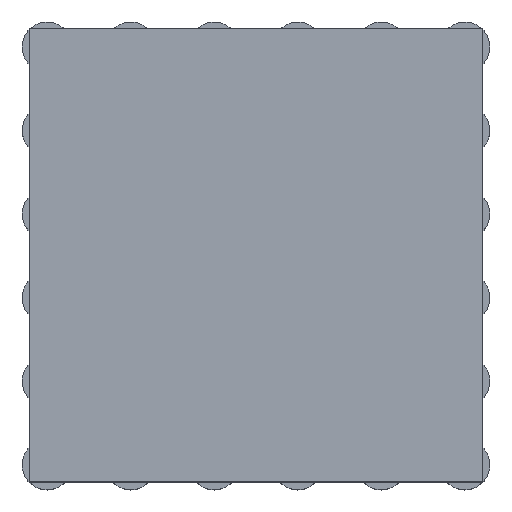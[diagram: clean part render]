
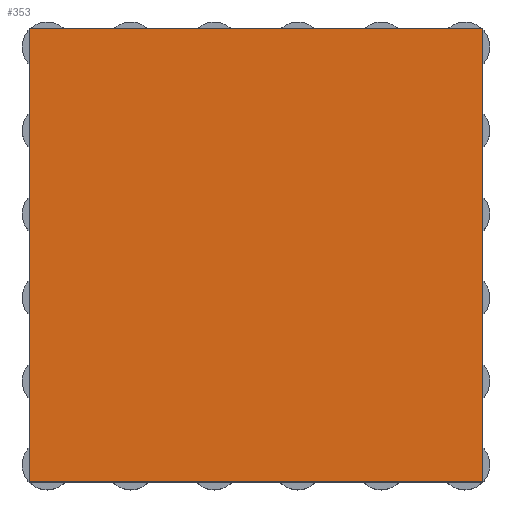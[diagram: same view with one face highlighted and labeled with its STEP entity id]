
A CAD part, top view. The second image highlights one B-rep face of the part: STEP entity #353.
In plain terms, the highlighted planar face has unit normal (0, 0, 1).
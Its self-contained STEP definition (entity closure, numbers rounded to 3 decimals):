
#39 = VERTEX_POINT('',#40);
#40 = CARTESIAN_POINT('',(-0.6,0.6,26.1));
#47 = PLANE('',#48);
#48 = AXIS2_PLACEMENT_3D('',#49,#50,#51);
#49 = CARTESIAN_POINT('',(-0.6,0.6,0.));
#50 = DIRECTION('',(0.,1.,0.));
#51 = DIRECTION('',(1.,0.,0.));
#59 = PLANE('',#60);
#60 = AXIS2_PLACEMENT_3D('',#61,#62,#63);
#61 = CARTESIAN_POINT('',(-0.6,-14.8,0.));
#62 = DIRECTION('',(-1.,0.,0.));
#63 = DIRECTION('',(0.,1.,0.));
#71 = EDGE_CURVE('',#39,#72,#74,.T.);
#72 = VERTEX_POINT('',#73);
#73 = CARTESIAN_POINT('',(14.8,0.6,26.1));
#74 = SURFACE_CURVE('',#75,(#79,#86),.PCURVE_S1.);
#75 = LINE('',#76,#77);
#76 = CARTESIAN_POINT('',(-0.6,0.6,26.1));
#77 = VECTOR('',#78,1.);
#78 = DIRECTION('',(1.,0.,0.));
#79 = PCURVE('',#47,#80);
#80 = DEFINITIONAL_REPRESENTATION('',(#81),#85);
#81 = LINE('',#82,#83);
#82 = CARTESIAN_POINT('',(0.,-26.1));
#83 = VECTOR('',#84,1.);
#84 = DIRECTION('',(1.,0.));
#85 = ( GEOMETRIC_REPRESENTATION_CONTEXT(2) 
PARAMETRIC_REPRESENTATION_CONTEXT() REPRESENTATION_CONTEXT('2D SPACE',''
  ) );
#86 = PCURVE('',#87,#92);
#87 = PLANE('',#88);
#88 = AXIS2_PLACEMENT_3D('',#89,#90,#91);
#89 = CARTESIAN_POINT('',(7.1,-7.1,26.1));
#90 = DIRECTION('',(0.,0.,-1.));
#91 = DIRECTION('',(-1.,0.,0.));
#92 = DEFINITIONAL_REPRESENTATION('',(#93),#97);
#93 = LINE('',#94,#95);
#94 = CARTESIAN_POINT('',(7.7,7.7));
#95 = VECTOR('',#96,1.);
#96 = DIRECTION('',(-1.,0.));
#97 = ( GEOMETRIC_REPRESENTATION_CONTEXT(2) 
PARAMETRIC_REPRESENTATION_CONTEXT() REPRESENTATION_CONTEXT('2D SPACE',''
  ) );
#115 = PLANE('',#116);
#116 = AXIS2_PLACEMENT_3D('',#117,#118,#119);
#117 = CARTESIAN_POINT('',(14.8,0.6,0.));
#118 = DIRECTION('',(1.,0.,-0.));
#119 = DIRECTION('',(0.,-1.,0.));
#157 = EDGE_CURVE('',#72,#158,#160,.T.);
#158 = VERTEX_POINT('',#159);
#159 = CARTESIAN_POINT('',(14.8,-14.8,26.1));
#160 = SURFACE_CURVE('',#161,(#165,#172),.PCURVE_S1.);
#161 = LINE('',#162,#163);
#162 = CARTESIAN_POINT('',(14.8,0.6,26.1));
#163 = VECTOR('',#164,1.);
#164 = DIRECTION('',(0.,-1.,0.));
#165 = PCURVE('',#115,#166);
#166 = DEFINITIONAL_REPRESENTATION('',(#167),#171);
#167 = LINE('',#168,#169);
#168 = CARTESIAN_POINT('',(0.,-26.1));
#169 = VECTOR('',#170,1.);
#170 = DIRECTION('',(1.,0.));
#171 = ( GEOMETRIC_REPRESENTATION_CONTEXT(2) 
PARAMETRIC_REPRESENTATION_CONTEXT() REPRESENTATION_CONTEXT('2D SPACE',''
  ) );
#172 = PCURVE('',#87,#173);
#173 = DEFINITIONAL_REPRESENTATION('',(#174),#178);
#174 = LINE('',#175,#176);
#175 = CARTESIAN_POINT('',(-7.7,7.7));
#176 = VECTOR('',#177,1.);
#177 = DIRECTION('',(0.,-1.));
#178 = ( GEOMETRIC_REPRESENTATION_CONTEXT(2) 
PARAMETRIC_REPRESENTATION_CONTEXT() REPRESENTATION_CONTEXT('2D SPACE',''
  ) );
#196 = PLANE('',#197);
#197 = AXIS2_PLACEMENT_3D('',#198,#199,#200);
#198 = CARTESIAN_POINT('',(14.8,-14.8,0.));
#199 = DIRECTION('',(0.,-1.,0.));
#200 = DIRECTION('',(-1.,0.,0.));
#233 = EDGE_CURVE('',#158,#234,#236,.T.);
#234 = VERTEX_POINT('',#235);
#235 = CARTESIAN_POINT('',(-0.6,-14.8,26.1));
#236 = SURFACE_CURVE('',#237,(#241,#248),.PCURVE_S1.);
#237 = LINE('',#238,#239);
#238 = CARTESIAN_POINT('',(14.8,-14.8,26.1));
#239 = VECTOR('',#240,1.);
#240 = DIRECTION('',(-1.,0.,0.));
#241 = PCURVE('',#196,#242);
#242 = DEFINITIONAL_REPRESENTATION('',(#243),#247);
#243 = LINE('',#244,#245);
#244 = CARTESIAN_POINT('',(0.,-26.1));
#245 = VECTOR('',#246,1.);
#246 = DIRECTION('',(1.,0.));
#247 = ( GEOMETRIC_REPRESENTATION_CONTEXT(2) 
PARAMETRIC_REPRESENTATION_CONTEXT() REPRESENTATION_CONTEXT('2D SPACE',''
  ) );
#248 = PCURVE('',#87,#249);
#249 = DEFINITIONAL_REPRESENTATION('',(#250),#254);
#250 = LINE('',#251,#252);
#251 = CARTESIAN_POINT('',(-7.7,-7.7));
#252 = VECTOR('',#253,1.);
#253 = DIRECTION('',(1.,0.));
#254 = ( GEOMETRIC_REPRESENTATION_CONTEXT(2) 
PARAMETRIC_REPRESENTATION_CONTEXT() REPRESENTATION_CONTEXT('2D SPACE',''
  ) );
#304 = EDGE_CURVE('',#234,#39,#305,.T.);
#305 = SURFACE_CURVE('',#306,(#310,#317),.PCURVE_S1.);
#306 = LINE('',#307,#308);
#307 = CARTESIAN_POINT('',(-0.6,-14.8,26.1));
#308 = VECTOR('',#309,1.);
#309 = DIRECTION('',(0.,1.,0.));
#310 = PCURVE('',#59,#311);
#311 = DEFINITIONAL_REPRESENTATION('',(#312),#316);
#312 = LINE('',#313,#314);
#313 = CARTESIAN_POINT('',(0.,-26.1));
#314 = VECTOR('',#315,1.);
#315 = DIRECTION('',(1.,0.));
#316 = ( GEOMETRIC_REPRESENTATION_CONTEXT(2) 
PARAMETRIC_REPRESENTATION_CONTEXT() REPRESENTATION_CONTEXT('2D SPACE',''
  ) );
#317 = PCURVE('',#87,#318);
#318 = DEFINITIONAL_REPRESENTATION('',(#319),#323);
#319 = LINE('',#320,#321);
#320 = CARTESIAN_POINT('',(7.7,-7.7));
#321 = VECTOR('',#322,1.);
#322 = DIRECTION('',(0.,1.));
#323 = ( GEOMETRIC_REPRESENTATION_CONTEXT(2) 
PARAMETRIC_REPRESENTATION_CONTEXT() REPRESENTATION_CONTEXT('2D SPACE',''
  ) );
#353 = ADVANCED_FACE('',(#354),#87,.F.);
#354 = FACE_BOUND('',#355,.F.);
#355 = EDGE_LOOP('',(#356,#357,#358,#359));
#356 = ORIENTED_EDGE('',*,*,#71,.T.);
#357 = ORIENTED_EDGE('',*,*,#157,.T.);
#358 = ORIENTED_EDGE('',*,*,#233,.T.);
#359 = ORIENTED_EDGE('',*,*,#304,.T.);
